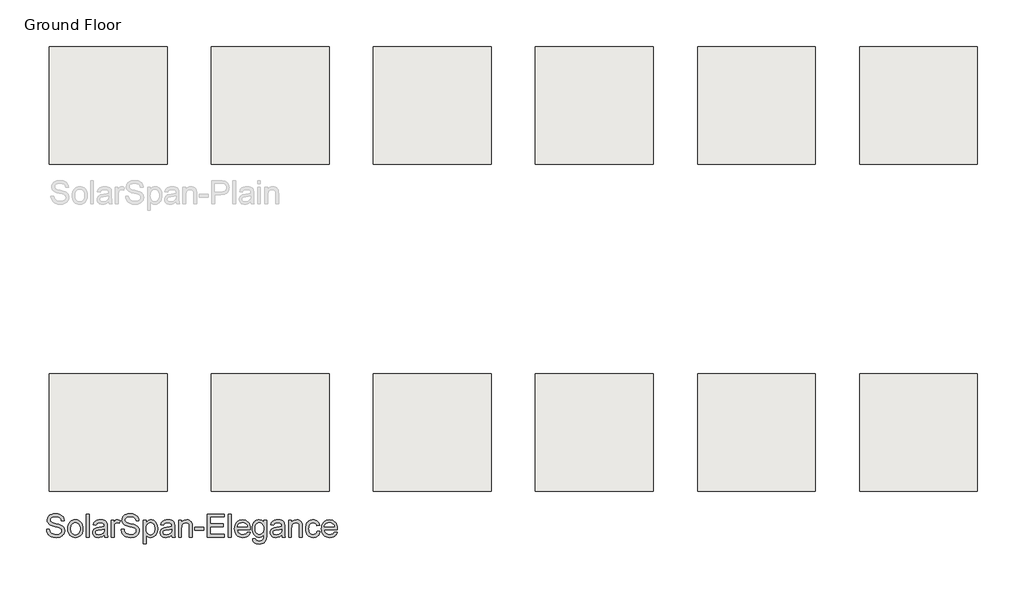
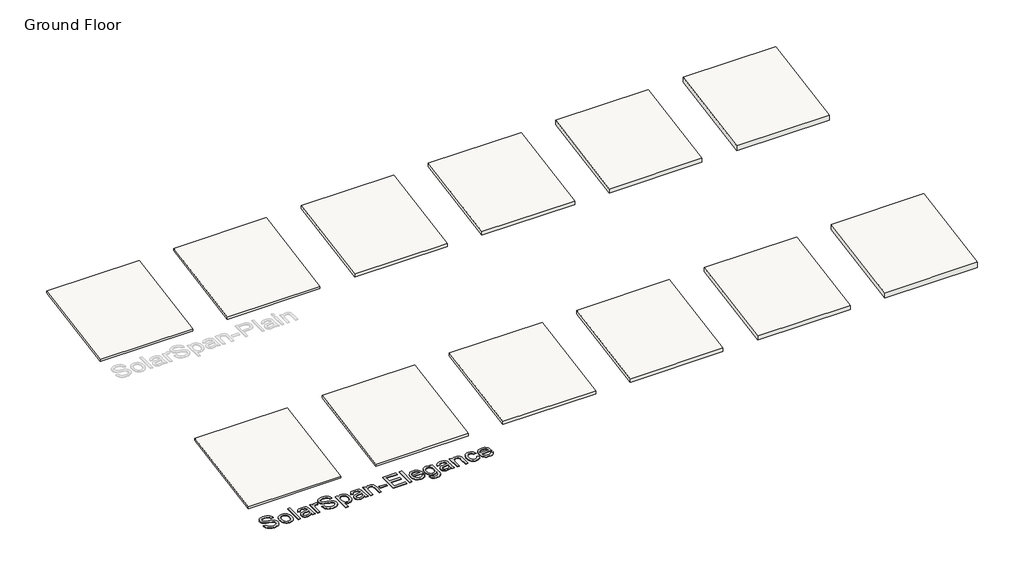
# One storey, part 1 of 2: 12 roofs, 1 proxy.
"""IFC4 building model written with IfcOpenShell, lengths in millimetres."""

from ifc_helpers import new_model, si_unit, frame, origin, origin_with_axes, place, context, project, spatial, polyline, outline, extrude, element, save

model = new_model("IFC4")

# Units and contexts
model_context = context("Model", 3, world=origin())
ifc_project = project(units=[si_unit("LENGTHUNIT", "METRE", prefix="MILLI")], contexts=[model_context])

# Site, building, storey
site = spatial("IfcSite", under=ifc_project)
building = spatial("IfcBuilding", under=site)
storey = spatial("IfcBuildingStorey", under=building, Name="Ground Floor", Elevation=0.0)

# Proxy
placement = place(None, origin())
element("IfcBuildingElementProxy", 1, Name="600mm Arial", ObjectType="600mm Arial", at=placement, inside=storey, context=model_context, shape_type="SweptSolid", body=[
    extrude(outline(polyline([(-14841.5748158, -9112.2258923), (-14743.6354219, -9112.2258923), (-14732.397259, -9166.5755608), (-14723.3708622, -9189.7512829), (-14712.0729219, -9210.2609302), (-14697.9295744, -9228.5169671), (-14680.366956, -9244.9318582), (-14659.3850668, -9259.5056035), (-14634.9839068, -9272.2382029), (-14608.0601378, -9282.5737261), (-14579.5104219, -9289.9562427), (-14517.5331492, -9295.8622559), (-14462.9682818, -9291.3909018), (-14415.194134, -9277.9768393), (-14376.4822496, -9256.7438847), (-14361.3764849, -9243.616754), (-14349.1041719, -9228.8158544), (-14332.8207912, -9196.7512237), (-14327.3929977, -9163.108468), (-14331.4578651, -9130.3265078), (-14343.6524674, -9101.9919908), (-14353.9102799, -9089.4207905), (-14368.4242477, -9077.8179851), (-14410.2206492, -9057.517559), (-14461.9401094, -9042.1427957), (-14552.8257628, -9020.1207786), (-14646.4372685, -8995.3729093), (-14706.3342855, -8971.8205893), (-14732.4869252, -8956.2186716), (-14755.0887837, -8938.8712521), (-14774.1398608, -8919.7783307), (-14789.6401568, -8898.9399074), (-14801.6494489, -8876.5711811), (-14810.2275147, -8852.8873506), (-14815.3743542, -8827.888416), (-14817.0899674, -8801.5743771), (-14814.9678675, -8772.4089534), (-14808.6015677, -8744.2119245), (-14797.9910682, -8716.9832905), (-14783.1363689, -8690.7230514), (-14764.2048466, -8666.5012237), (-14741.3638783, -8645.3878241), (-14714.613464, -8627.3828525), (-14683.9536037, -8612.486309), (-14650.4184475, -8600.8117706), (-14615.0421454, -8592.4728146), (-14577.8246975, -8587.4694411), (-14538.7661037, -8585.8016499), (-14496.1567287, -8587.5471518), (-14456.1297401, -8592.7836574), (-14418.6851378, -8601.5111669), (-14383.8229219, -8613.7296802), (-14352.188689, -8629.3315978), (-14324.4280355, -8648.2093203), (-14300.5409617, -8670.3628478), (-14280.5274674, -8695.7921802), (-14264.542974, -8723.7560769), (-14252.742903, -8753.5132976), (-14245.1272543, -8785.0638421), (-14241.696028, -8818.4077105), (-14339.6354219, -8818.4077105), (-14346.1870318, -8787.1560533), (-14357.6164825, -8759.9692635), (-14373.9237742, -8736.8473411), (-14395.1089068, -8717.7902862), (-14421.5664115, -8702.8937427), (-14453.6908196, -8692.2533544), (-14491.4821312, -8685.8691215), (-14534.9403462, -8683.7410438), (-14579.7853982, -8685.8452105), (-14618.1027515, -8692.1577105), (-14649.8924058, -8702.6785438), (-14675.1543613, -8717.4077105), (-14694.4027041, -8735.1137947), (-14708.1515204, -8754.5653809), (-14716.4008102, -8775.762469), (-14719.1505734, -8798.705059), (-14717.2018282, -8818.4435769), (-14711.3555924, -8836.3409491), (-14701.611866, -8852.3971754), (-14687.9706492, -8866.6122559), (-14666.4985848, -8880.0741404), (-14632.6884522, -8893.6794908), (-14528.0539825, -8921.3205893), (-14420.0719749, -8947.5748506), (-14354.7471643, -8970.4815741), (-14324.7209451, -8987.207308), (-14298.9150147, -9006.0132976), (-14277.3293731, -9026.8995429), (-14259.9640204, -9049.8660438), (-14246.6157131, -9074.7932455), (-14237.0812079, -9101.561593), (-14231.3605048, -9130.1710864), (-14229.4536037, -9160.6217256), (-14231.6474366, -9191.257675), (-14238.2289352, -9220.9969624), (-14249.1980995, -9249.8395878), (-14264.5549295, -9277.7855514), (-14284.0304266, -9303.7528809), (-14307.3555924, -9326.6596044), (-14334.5304266, -9346.5057218), (-14365.5549295, -9363.2912332), (-14399.5264612, -9376.6395405), (-14435.5423821, -9386.1740457), (-14473.6026923, -9391.8947488), (-14513.7073916, -9393.8016499), (-14563.8068826, -9391.7453052), (-14609.6621738, -9385.5762711), (-14651.2732652, -9375.2945476), (-14688.6401568, -9360.9001347), (-14721.9900029, -9342.3691215), (-14751.5499579, -9319.6775968), (-14777.3200218, -9292.8255608), (-14799.3001946, -9261.8130135), (-14817.0062789, -9227.6442161), (-14829.9540772, -9191.3234302), (-14838.1435895, -9152.8506555), (-14841.5748158, -9112.2258923)])), origin_with_axes(), (0.0, 0.0, 1.0), 20.0),
    extrude(outline(polyline([(-14119.2717855, -9093.8622559), (-14113.9755024, -9019.3436716), (-14107.3551485, -8985.9489924), (-14098.086653, -8955.1307218), (-14086.1700159, -8926.8888599), (-14071.6052372, -8901.2234065), (-14054.392317, -8878.1343617), (-14034.5312552, -8857.6217256), (-13997.2062079, -8829.7534728), (-13956.007581, -8809.8475779), (-13910.9353746, -8797.904041), (-13861.9895886, -8793.922862), (-13807.9567406, -8798.7708142), (-13759.1006208, -8813.3146707), (-13715.4212292, -8837.5544316), (-13676.9185658, -8871.4900968), (-13645.493554, -8913.9739392), (-13623.047117, -8963.8582313), (-13609.5792548, -9021.1429733), (-13605.0899674, -9085.828165), (-13607.0745791, -9138.2529993), (-13613.0284143, -9184.7718203), (-13622.951473, -9225.3846281), (-13636.8437552, -9260.0914226), (-13654.5319063, -9290.0698198), (-13675.8425715, -9316.4974358), (-13700.775751, -9339.3742706), (-13729.3314446, -9358.7003241), (-13760.3977917, -9374.0571541), (-13792.8629314, -9385.0263184), (-13826.7268637, -9391.607817), (-13861.9895886, -9393.8016499), (-13916.8114991, -9388.9716309), (-13966.1219276, -9374.4815741), (-14009.9208741, -9350.3314794), (-14048.2083386, -9316.5213468), (-14079.2985966, -9273.62504), (-14101.5059238, -9222.2164226), (-14114.8303201, -9162.2954946), (-14119.2717855, -9093.8622559)]), holes=[polyline([(-14021.3323916, -9093.670968), (-14018.4989399, -9141.1761172), (-14009.9985848, -9182.3089889), (-13995.8313263, -9217.0695831), (-13975.9971643, -9245.4578999), (-13951.8709806, -9267.5098056), (-13924.8276568, -9283.2611669), (-13894.8671927, -9292.7119837), (-13861.9895886, -9295.8622559), (-13829.2793613, -9292.6940504), (-13799.4384522, -9283.189434), (-13772.4668613, -9267.3484065), (-13748.3645886, -9245.170968), (-13728.5304266, -9216.5016972), (-13714.3631681, -9181.1851726), (-13705.862813, -9139.2213942), (-13703.0293613, -9090.610362), (-13705.8807462, -9044.6116049), (-13714.4349011, -9004.5547275), (-13728.6918258, -8970.4397299), (-13748.6515204, -8942.266612), (-13772.8434593, -8920.2147062), (-13799.797117, -8904.4633449), (-13829.5124934, -8895.0125282), (-13861.9895886, -8891.8622559), (-13894.8671927, -8895.0005727), (-13924.8276568, -8904.415523), (-13951.8709806, -8920.1071068), (-13975.9971643, -8942.0753241), (-13995.8313263, -8970.3799524), (-14009.9985848, -9005.0807692), (-14018.4989399, -9046.1777744), (-14021.3323916, -9093.670968)])]), origin_with_axes(), (0.0, 0.0, 1.0), 20.0),
    extrude(outline(polyline([(-13494.9081492, -9381.5592256), (-13494.9081492, -8598.0440741), (-13396.9687552, -8598.0440741), (-13396.9687552, -9381.5592256), (-13494.9081492, -9381.5592256)])), origin_with_axes(), (0.0, 0.0, 1.0), 20.0),
    extrude(outline(polyline([(-12882.7869371, -9308.1046802), (-12929.5807344, -9348.2273127), (-12953.497697, -9363.0879898), (-12977.7613689, -9374.4815741), (-13028.4287458, -9388.9716309), (-13082.6827704, -9393.8016499), (-13126.290429, -9390.8964652), (-13164.5300715, -9382.1809112), (-13197.401698, -9367.6549879), (-13224.9053083, -9347.3186953), (-13246.6224603, -9322.4632266), (-13262.1347117, -9294.3797749), (-13271.4420625, -9263.0683402), (-13274.5445128, -9228.5289226), (-13269.8579598, -9187.9280703), (-13255.7983007, -9151.0573317), (-13234.1110374, -9119.4948317), (-13206.5416719, -9094.8186953), (-13174.1422874, -9076.1681271), (-13137.9649674, -9062.6823317), (-13053.2244371, -9047.953165), (-12953.0852325, -9032.4588468), (-12883.3608007, -9014.2864983), (-12882.7869371, -8992.4796802), (-12884.4726615, -8968.7360722), (-12889.5298348, -8948.7703999), (-12897.9584569, -8932.5826631), (-12909.758528, -8920.172862), (-12930.154598, -8907.7869718), (-12954.9981113, -8898.9399074), (-12984.2890677, -8893.6316688), (-13018.0274674, -8891.8622559), (-13076.3702704, -8896.5727199), (-13098.9422401, -8902.4608), (-13117.1145886, -8910.704112), (-13132.0469986, -8921.9482526), (-13144.899153, -8936.8388184), (-13155.6710516, -8955.3758094), (-13164.3626946, -8977.5592256), (-13262.3020886, -8965.3168014), (-13245.3013783, -8911.7561953), (-13233.6627065, -8889.2798696), (-13219.9318234, -8869.672862), (-13203.5169323, -8852.5406413), (-13183.8262363, -8837.4886764), (-13160.8597354, -8824.5169671), (-13134.6174295, -8813.6255135), (-13074.4334806, -8798.8485249), (-13005.4024674, -8793.922862), (-12939.1929503, -8798.2746612), (-12886.7083386, -8811.330059), (-12847.1356587, -8830.9609775), (-12819.6619371, -8855.0393393), (-12801.4417666, -8884.8085154), (-12789.6297401, -8921.5118771), (-12786.0430924, -8955.3698317), (-12784.8475431, -9007.2088468), (-12784.8475431, -9129.0592256), (-12783.6041719, -9235.2000874), (-12779.8740583, -9299.2097938), (-12772.5094749, -9341.2692161), (-12760.3626946, -9381.5592256), (-12858.3020886, -9381.5592256), (-12873.9876946, -9347.5099832), (-12882.7869371, -9308.1046802)]), holes=[polyline([(-12882.7869371, -9112.2258923), (-12948.5899674, -9128.533184), (-13040.7907249, -9142.2580893), (-13091.6015677, -9149.7661385), (-13125.0530355, -9158.1349832), (-13146.9794087, -9168.9905703), (-13163.2149674, -9183.9588468), (-13173.257581, -9201.8920855), (-13176.6051189, -9221.642559), (-13174.7819063, -9236.8619008), (-13169.3122685, -9250.7661385), (-13160.1962055, -9263.355272), (-13147.4337174, -9274.6293014), (-13131.1443589, -9283.918719), (-13111.4476852, -9290.5540173), (-13061.8323916, -9295.8622559), (-13009.2282249, -9290.0040646), (-12985.2215962, -9282.6813255), (-12962.7452704, -9272.4294908), (-12925.0615583, -9246.5338942), (-12898.8551189, -9215.7126347), (-12887.2343802, -9183.9588468), (-12883.3608007, -9139.9626347), (-12882.7869371, -9112.2258923)])]), origin_with_axes(), (0.0, 0.0, 1.0), 20.0),
    extrude(outline(polyline([(-12650.1808765, -9381.5592256), (-12650.1808765, -8806.1652862), (-12564.4839068, -8806.1652862), (-12564.4839068, -8891.2883923), (-12532.8257628, -8841.9361196), (-12503.6543613, -8812.860362), (-12474.3873158, -8798.657237), (-12442.4422401, -8793.922862), (-12418.1486795, -8795.8118298), (-12393.663831, -8801.4787332), (-12368.9876946, -8810.9235722), (-12344.1202704, -8824.1463468), (-12376.8304977, -8911.9474832), (-12411.2623158, -8896.8835627), (-12445.694134, -8891.8622559), (-12474.9372685, -8896.6922749), (-12501.0719749, -8911.1823317), (-12522.1853746, -8934.2325211), (-12536.3645886, -8964.7429377), (-12548.272259, -9019.4512711), (-12552.2414825, -9079.1330893), (-12552.2414825, -9381.5592256), (-12650.1808765, -9381.5592256)])), origin_with_axes(), (0.0, 0.0, 1.0), 20.0),
    extrude(outline(polyline([(-12307.3929977, -9112.2258923), (-12209.4536037, -9112.2258923), (-12198.2154408, -9166.5755608), (-12189.1890441, -9189.7512829), (-12177.8911037, -9210.2609302), (-12163.7477562, -9228.5169671), (-12146.1851378, -9244.9318582), (-12125.2032486, -9259.5056035), (-12100.8020886, -9272.2382029), (-12073.8783196, -9282.5737261), (-12045.3286037, -9289.9562427), (-11983.351331, -9295.8622559), (-11928.7864636, -9291.3909018), (-11881.0123158, -9277.9768393), (-11842.3004314, -9256.7438847), (-11827.1946667, -9243.616754), (-11814.9223537, -9228.8158544), (-11798.638973, -9196.7512237), (-11793.2111795, -9163.108468), (-11797.2760469, -9130.3265078), (-11809.4706492, -9101.9919908), (-11819.7284617, -9089.4207905), (-11834.2424295, -9077.8179851), (-11876.038831, -9057.517559), (-11927.7582912, -9042.1427957), (-12018.6439446, -9020.1207786), (-12112.2554503, -8995.3729093), (-12172.1524674, -8971.8205893), (-12198.305107, -8956.2186716), (-12220.9069655, -8938.8712521), (-12239.9580426, -8919.7783307), (-12255.4583386, -8898.9399074), (-12267.4676307, -8876.5711811), (-12276.0456965, -8852.8873506), (-12281.192536, -8827.888416), (-12282.9081492, -8801.5743771), (-12280.7860493, -8772.4089534), (-12274.4197496, -8744.2119245), (-12263.80925, -8716.9832905), (-12248.9545507, -8690.7230514), (-12230.0230284, -8666.5012237), (-12207.1820602, -8645.3878241), (-12180.4316459, -8627.3828525), (-12149.7717855, -8612.486309), (-12116.2366293, -8600.8117706), (-12080.8603272, -8592.4728146), (-12043.6428793, -8587.4694411), (-12004.5842855, -8585.8016499), (-11961.9749105, -8587.5471518), (-11921.9479219, -8592.7836574), (-11884.5033196, -8601.5111669), (-11849.6411037, -8613.7296802), (-11818.0068708, -8629.3315978), (-11790.2462174, -8648.2093203), (-11766.3591435, -8670.3628478), (-11746.3456492, -8695.7921802), (-11730.3611558, -8723.7560769), (-11718.5610848, -8753.5132976), (-11710.9454361, -8785.0638421), (-11707.5142098, -8818.4077105), (-11805.4536037, -8818.4077105), (-11812.0052136, -8787.1560533), (-11823.4346643, -8759.9692635), (-11839.741956, -8736.8473411), (-11860.9270886, -8717.7902862), (-11887.3845933, -8702.8937427), (-11919.5090015, -8692.2533544), (-11957.300313, -8685.8691215), (-12000.758528, -8683.7410438), (-12045.6035801, -8685.8452105), (-12083.9209333, -8692.1577105), (-12115.7105876, -8702.6785438), (-12140.9725431, -8717.4077105), (-12160.2208859, -8735.1137947), (-12173.9697022, -8754.5653809), (-12182.218992, -8775.762469), (-12184.9687552, -8798.705059), (-12183.02001, -8818.4435769), (-12177.1737742, -8836.3409491), (-12167.4300479, -8852.3971754), (-12153.788831, -8866.6122559), (-12132.3167666, -8880.0741404), (-12098.506634, -8893.6794908), (-11993.8721643, -8921.3205893), (-11885.8901568, -8947.5748506), (-11820.5653462, -8970.4815741), (-11790.5391269, -8987.207308), (-11764.7331965, -9006.0132976), (-11743.147555, -9026.8995429), (-11725.7822022, -9049.8660438), (-11712.4338949, -9074.7932455), (-11702.8993897, -9101.561593), (-11697.1786866, -9130.1710864), (-11695.2717855, -9160.6217256), (-11697.4656184, -9191.257675), (-11704.047117, -9220.9969624), (-11715.0162813, -9249.8395878), (-11730.3731113, -9277.7855514), (-11749.8486085, -9303.7528809), (-11773.1737742, -9326.6596044), (-11800.3486085, -9346.5057218), (-11831.3731113, -9363.2912332), (-11865.344643, -9376.6395405), (-11901.360564, -9386.1740457), (-11939.4208741, -9391.8947488), (-11979.5255734, -9393.8016499), (-12029.6250644, -9391.7453052), (-12075.4803556, -9385.5762711), (-12117.091447, -9375.2945476), (-12154.4583386, -9360.9001347), (-12187.8081847, -9342.3691215), (-12217.3681397, -9319.6775968), (-12243.1382036, -9292.8255608), (-12265.1183765, -9261.8130135), (-12282.8244607, -9227.6442161), (-12295.772259, -9191.3234302), (-12303.9617713, -9152.8506555), (-12307.3929977, -9112.2258923)])), origin_with_axes(), (0.0, 0.0, 1.0), 20.0),
    extrude(outline(polyline([(-11560.6051189, -9601.922862), (-11560.6051189, -8806.1652862), (-11462.6657249, -8806.1652862), (-11462.6657249, -8902.1918014), (-11430.7206492, -8854.8241404), (-11394.9498158, -8820.9900968), (-11375.1036984, -8809.1481816), (-11353.2490583, -8800.6896707), (-11329.3858954, -8795.6145642), (-11303.5142098, -8793.922862), (-11269.3573679, -8796.2900495), (-11237.2807818, -8803.391612), (-11207.2844513, -8815.2275495), (-11179.3683765, -8831.797862), (-11154.1422874, -8852.6721518), (-11132.2159143, -8877.4200211), (-11113.5892571, -8906.0414699), (-11098.2623158, -8938.5364983), (-11086.2948679, -8973.7932455), (-11077.7466908, -9010.6998506), (-11072.6177846, -9049.2563137), (-11070.9081492, -9089.4626347), (-11072.8389612, -9132.4486077), (-11078.6313973, -9173.2228146), (-11088.2854574, -9211.7852554), (-11101.8011416, -9248.1359302), (-11118.9931397, -9281.3243771), (-11139.6761416, -9310.4001347), (-11163.8501473, -9335.3632029), (-11191.5151568, -9356.2135817), (-11221.3142216, -9372.6583615), (-11251.8903935, -9384.4046328), (-11283.2436724, -9391.4523956), (-11315.3740583, -9393.8016499), (-11338.4900029, -9392.2295026), (-11360.3984427, -9387.5130608), (-11381.0993779, -9379.6523246), (-11400.5928083, -9368.6472938), (-11435.0007155, -9340.1693108), (-11462.6657249, -9305.0440741), (-11462.6657249, -9601.922862), (-11560.6051189, -9601.922862)]), holes=[polyline([(-11462.6657249, -9098.453165), (-11460.0175834, -9145.6534491), (-11452.0731587, -9186.2543014), (-11438.8324508, -9220.2557218), (-11420.2954598, -9247.6577105), (-11397.9805332, -9268.7471991), (-11373.4060185, -9283.8111196), (-11346.5719158, -9292.8494718), (-11317.4782249, -9295.8622559), (-11287.9660919, -9292.7418724), (-11260.641814, -9283.3807218), (-11235.5053911, -9267.7788042), (-11212.5568234, -9245.9361196), (-11193.4340133, -9217.541825), (-11179.7748632, -9182.2850779), (-11171.5793731, -9140.1658781), (-11168.8475431, -9091.1842256), (-11171.5136179, -9044.3904283), (-11179.5118424, -9003.861309), (-11192.8422164, -8969.5968677), (-11211.5047401, -8941.5971044), (-11233.8734664, -8919.8381082), (-11258.3224484, -8904.295968), (-11284.8516861, -8894.970684), (-11313.4611795, -8891.8622559), (-11341.9810067, -8895.1679496), (-11368.8151094, -8905.0850305), (-11393.9634877, -8921.6134988), (-11417.4261416, -8944.7533544), (-11437.2184593, -8974.1937545), (-11451.3558291, -9009.6238563), (-11459.838251, -9051.0436598), (-11462.6657249, -9098.453165)])]), origin_with_axes(), (0.0, 0.0, 1.0), 20.0),
    extrude(outline(polyline([(-10593.4536037, -9308.1046802), (-10640.2474011, -9348.2273127), (-10664.1643637, -9363.0879898), (-10688.4280355, -9374.4815741), (-10739.0954124, -9388.9716309), (-10793.3494371, -9393.8016499), (-10836.9570957, -9390.8964652), (-10875.1967382, -9382.1809112), (-10908.0683646, -9367.6549879), (-10935.5719749, -9347.3186953), (-10957.2891269, -9322.4632266), (-10972.8013783, -9294.3797749), (-10982.1087292, -9263.0683402), (-10985.2111795, -9228.5289226), (-10980.5246265, -9187.9280703), (-10966.4649674, -9151.0573317), (-10944.7777041, -9119.4948317), (-10917.2083386, -9094.8186953), (-10884.8089541, -9076.1681271), (-10848.631634, -9062.6823317), (-10763.8911037, -9047.953165), (-10663.7518992, -9032.4588468), (-10594.0274674, -9014.2864983), (-10593.4536037, -8992.4796802), (-10595.1393282, -8968.7360722), (-10600.1965015, -8948.7703999), (-10608.6251236, -8932.5826631), (-10620.4251946, -8920.172862), (-10640.8212647, -8907.7869718), (-10665.664778, -8898.9399074), (-10694.9557344, -8893.6316688), (-10728.694134, -8891.8622559), (-10787.0369371, -8896.5727199), (-10809.6089068, -8902.4608), (-10827.7812552, -8910.704112), (-10842.7136653, -8921.9482526), (-10855.5658196, -8936.8388184), (-10866.3377183, -8955.3758094), (-10875.0293613, -8977.5592256), (-10972.9687552, -8965.3168014), (-10955.968045, -8911.7561953), (-10944.3293731, -8889.2798696), (-10930.5984901, -8869.672862), (-10914.183599, -8852.5406413), (-10894.492903, -8837.4886764), (-10871.526402, -8824.5169671), (-10845.2840962, -8813.6255135), (-10785.1001473, -8798.8485249), (-10716.069134, -8793.922862), (-10649.859617, -8798.2746612), (-10597.3750052, -8811.330059), (-10557.8023253, -8830.9609775), (-10530.3286037, -8855.0393393), (-10512.1084333, -8884.8085154), (-10500.2964068, -8921.5118771), (-10496.709759, -8955.3698317), (-10495.5142098, -9007.2088468), (-10495.5142098, -9129.0592256), (-10494.2708386, -9235.2000874), (-10490.5407249, -9299.2097938), (-10483.1761416, -9341.2692161), (-10471.0293613, -9381.5592256), (-10568.9687552, -9381.5592256), (-10584.6543613, -9347.5099832), (-10593.4536037, -9308.1046802)]), holes=[polyline([(-10593.4536037, -9112.2258923), (-10659.256634, -9128.533184), (-10751.4573916, -9142.2580893), (-10802.2682344, -9149.7661385), (-10835.7197022, -9158.1349832), (-10857.6460753, -9168.9905703), (-10873.881634, -9183.9588468), (-10883.9242477, -9201.8920855), (-10887.2717855, -9221.642559), (-10885.448573, -9236.8619008), (-10879.9789352, -9250.7661385), (-10870.8628722, -9263.355272), (-10858.100384, -9274.6293014), (-10841.8110256, -9283.918719), (-10822.1143518, -9290.5540173), (-10772.4990583, -9295.8622559), (-10719.8948916, -9290.0040646), (-10695.8882628, -9282.6813255), (-10673.4119371, -9272.4294908), (-10635.7282249, -9246.5338942), (-10609.5217855, -9215.7126347), (-10597.9010469, -9183.9588468), (-10594.0274674, -9139.9626347), (-10593.4536037, -9112.2258923)])]), origin_with_axes(), (0.0, 0.0, 1.0), 20.0),
    extrude(outline(polyline([(-10360.8475431, -9381.5592256), (-10360.8475431, -8806.1652862), (-10262.9081492, -8806.1652862), (-10262.9081492, -8886.5061953), (-10228.8828177, -8846.000987), (-10209.3056989, -8830.0882266), (-10188.0189446, -8817.0686953), (-10165.022555, -8806.9423932), (-10140.3165299, -8799.7093203), (-10085.7755734, -8793.922862), (-10037.499295, -8798.585504), (-9993.287884, -8812.5734302), (-9956.4171454, -8834.1411385), (-9930.162884, -8861.5431271), (-9912.3492003, -8894.7076631), (-9900.8001946, -8933.5630135), (-9896.9266151, -8970.720684), (-9895.6354219, -9028.2505135), (-9895.6354219, -9381.5592256), (-9993.5748158, -9381.5592256), (-9993.5748158, -9041.4493771), (-9996.3963121, -8990.8059112), (-10004.8608007, -8954.795968), (-10020.4746738, -8928.9960154), (-10044.7443234, -8908.9825211), (-10075.8525147, -8896.1423222), (-10111.9820128, -8891.8622559), (-10141.7213002, -8894.2653099), (-10169.3444655, -8901.4744718), (-10194.8515086, -8913.4897417), (-10218.2424295, -8930.3111196), (-10237.7836819, -8953.8514841), (-10251.7417193, -8986.0237143), (-10260.1165417, -9026.8278099), (-10262.9081492, -9076.2637711), (-10262.9081492, -9381.5592256), (-10360.8475431, -9381.5592256)])), origin_with_axes(), (0.0, 0.0, 1.0), 20.0),
    extrude(outline(polyline([(-9809.9384522, -9148.953165), (-9809.9384522, -9051.0137711), (-9503.8778462, -9051.0137711), (-9503.8778462, -9148.953165), (-9809.9384522, -9148.953165)])), origin_with_axes(), (0.0, 0.0, 1.0), 20.0),
    extrude(outline(polyline([(-9381.4536037, -9381.5592256), (-9381.4536037, -8598.0440741), (-8818.3020886, -8598.0440741), (-8818.3020886, -8695.983468), (-9283.5142098, -8695.983468), (-9283.5142098, -8928.5895286), (-8842.7869371, -8928.5895286), (-8842.7869371, -9026.5289226), (-9283.5142098, -9026.5289226), (-9283.5142098, -9283.6198317), (-8806.0596643, -9283.6198317), (-8806.0596643, -9381.5592256), (-9381.4536037, -9381.5592256)])), origin_with_axes(), (0.0, 0.0, 1.0), 20.0),
    extrude(outline(polyline([(-8671.3929977, -9381.5592256), (-8671.3929977, -8598.0440741), (-8573.4536037, -8598.0440741), (-8573.4536037, -9381.5592256), (-8671.3929977, -9381.5592256)])), origin_with_axes(), (0.0, 0.0, 1.0), 20.0),
    extrude(outline(polyline([(-8023.6922401, -9210.1652862), (-7927.6657249, -9222.4077105), (-7942.3889139, -9260.8685296), (-7962.26492, -9294.7623506), (-7987.2937434, -9324.0891735), (-8017.475384, -9348.8489983), (-8052.4989991, -9368.5157834), (-8092.0537458, -9382.563487), (-8136.1396241, -9390.9921091), (-8184.756634, -9393.8016499), (-8245.526402, -9388.9536977), (-8299.6728272, -9374.4098411), (-8347.1959096, -9350.1700803), (-8388.0956492, -9316.234415), (-8420.9852088, -9273.5473293), (-8444.4777515, -9223.0533071), (-8458.573277, -9164.7523483), (-8463.2717855, -9098.6444529), (-8458.5254551, -9030.2949027), (-8444.2864636, -8970.0511764), (-8420.5548111, -8917.9132739), (-8387.3304977, -8873.8811953), (-8346.5383575, -8838.8994245), (-8300.1032249, -8813.9124453), (-8248.0250999, -8798.9202578), (-8190.3039825, -8793.922862), (-8134.4419442, -8798.9083023), (-8083.9240109, -8813.8646233), (-8038.7501828, -8838.791825), (-7998.9204598, -8873.6899074), (-7966.4074981, -8917.6263421), (-7943.1839541, -8969.6686006), (-7929.2498277, -9029.816683), (-7924.6051189, -9098.0705893), (-7925.1789825, -9124.4683165), (-8365.3323916, -9124.4683165), (-8359.6595105, -9163.5508213), (-8348.3795033, -9197.7793961), (-8331.4923703, -9227.154041), (-8308.9981113, -9251.6747559), (-8282.1400976, -9271.0067872), (-8252.1617003, -9284.8153809), (-8219.0629195, -9293.1005372), (-8182.8437552, -9295.8622559), (-8130.7178083, -9290.7453052), (-8086.8172401, -9275.3944529), (-8067.951473, -9263.6422038), (-8051.1420507, -9248.8532597), (-8036.388973, -9231.0276205), (-8023.6922401, -9210.1652862)]), holes=[polyline([(-8365.3323916, -9026.5289226), (-8022.5445128, -9026.5289226), (-8027.5777751, -8998.8160911), (-8035.7911984, -8974.7855514), (-8047.1847827, -8954.4373033), (-8061.758528, -8937.7713468), (-8088.467098, -8917.6861196), (-8118.8579598, -8903.3395286), (-8152.9311132, -8894.7315741), (-8190.6865583, -8891.8622559), (-8225.1243542, -8894.1517327), (-8256.7047874, -8901.0201631), (-8285.427858, -8912.4675471), (-8311.2935658, -8928.4938847), (-8332.9987623, -8948.3579354), (-8349.2402988, -8971.3184586), (-8360.0181752, -8997.3754543), (-8365.3323916, -9026.5289226)])]), origin_with_axes(), (0.0, 0.0, 1.0), 20.0),
    extrude(outline(polyline([(-7851.1505734, -9430.5289226), (-7753.2111795, -9442.7713468), (-7749.0745791, -9459.2699264), (-7742.4034143, -9473.3774074), (-7733.1976852, -9485.09379), (-7721.4573916, -9494.4190741), (-7702.4601141, -9503.9595571), (-7680.2826757, -9510.7741877), (-7626.3873158, -9516.2258923), (-7595.8051662, -9514.6836338), (-7568.9053083, -9510.0568582), (-7545.687742, -9502.3455656), (-7526.1524674, -9491.5497559), (-7509.8929977, -9477.9683165), (-7496.5028462, -9461.9001347), (-7485.9820128, -9443.3452105), (-7478.3304977, -9422.3035438), (-7473.022259, -9380.1723885), (-7471.6354219, -9308.1046802), (-7504.2260943, -9340.2410438), (-7540.5947022, -9363.1955893), (-7580.7412458, -9376.9683165), (-7624.6657249, -9381.5592256), (-7678.3638192, -9376.2151205), (-7725.641814, -9360.1828052), (-7766.4997093, -9333.4622796), (-7800.9375052, -9296.0535438), (-7828.2617832, -9251.1726252), (-7847.7791246, -9202.0355514), (-7859.4895294, -9148.6423222), (-7863.3929977, -9090.9929377), (-7861.641518, -9050.661084), (-7856.3870791, -9011.9193108), (-7847.6296809, -8974.7676181), (-7835.3693234, -8939.2060059), (-7819.7913168, -8906.4180679), (-7801.0809712, -8877.587398), (-7779.2382865, -8852.713996), (-7754.2632628, -8831.797862), (-7726.5564091, -8815.2275495), (-7696.5182344, -8803.391612), (-7664.1487387, -8796.2900495), (-7629.4479219, -8793.922862), (-7583.6464304, -8799.2789226), (-7542.0771833, -8815.3471044), (-7504.7401804, -8842.1274074), (-7471.6354219, -8879.6198317), (-7471.6354219, -8806.1652862), (-7373.696028, -8806.1652862), (-7373.696028, -9302.9399074), (-7375.3697969, -9365.1861787), (-7380.3911037, -9417.6409018), (-7388.7599484, -9460.3040765), (-7400.476331, -9493.1757029), (-7415.8212055, -9519.6870073), (-7435.0755261, -9543.2692161), (-7458.2392926, -9563.9223293), (-7485.3125052, -9581.6463468), (-7516.0201875, -9595.8733828), (-7550.0873632, -9606.0355514), (-7587.5140322, -9612.1328525), (-7628.3001946, -9614.1652862), (-7676.2835635, -9611.3019458), (-7719.4249579, -9602.7119245), (-7757.7243779, -9588.3952223), (-7791.1818234, -9568.3518393), (-7818.207214, -9542.5578643), (-7837.2104693, -9510.9893866), (-7848.191589, -9473.646406), (-7851.1505734, -9430.5289226)]), holes=[polyline([(-7765.4536037, -9084.297862), (-7762.8413286, -9132.723584), (-7755.0045033, -9174.1314321), (-7741.9431279, -9208.521406), (-7723.6572022, -9235.8935059), (-7701.425964, -9256.7737734), (-7676.5286511, -9271.6882502), (-7648.9652633, -9280.6369363), (-7618.7358007, -9283.6198317), (-7588.8052254, -9280.6548696), (-7561.373348, -9271.7599832), (-7536.4401686, -9256.9351726), (-7514.0056871, -9236.1804377), (-7495.4686961, -9209.0773364), (-7482.2279882, -9175.2074264), (-7474.2835635, -9134.5707076), (-7471.6354219, -9087.1671802), (-7474.3612742, -9041.7422867), (-7482.538831, -9002.259273), (-7496.1680924, -8968.718139), (-7515.2490583, -8941.1188847), (-7538.1677372, -8919.5691096), (-7563.3101378, -8904.1764131), (-7590.67626, -8894.9407952), (-7620.2661037, -8891.8622559), (-7649.3597945, -8894.8929733), (-7676.1938973, -8903.9851252), (-7700.768412, -8919.1387119), (-7723.0833386, -8940.3537332), (-7741.6203296, -8967.5345452), (-7754.8610374, -9000.585504), (-7762.8054622, -9039.5066096), (-7765.4536037, -9084.297862)])]), origin_with_axes(), (0.0, 0.0, 1.0), 20.0),
    extrude(outline(polyline([(-6859.5142098, -9308.1046802), (-6906.3080071, -9348.2273127), (-6930.2249697, -9363.0879898), (-6954.4886416, -9374.4815741), (-7005.1560185, -9388.9716309), (-7059.4100431, -9393.8016499), (-7103.0177017, -9390.8964652), (-7141.2573443, -9382.1809112), (-7174.1289707, -9367.6549879), (-7201.632581, -9347.3186953), (-7223.349733, -9322.4632266), (-7238.8619844, -9294.3797749), (-7248.1693353, -9263.0683402), (-7251.2717855, -9228.5289226), (-7246.5852325, -9187.9280703), (-7232.5255734, -9151.0573317), (-7210.8383102, -9119.4948317), (-7183.2689446, -9094.8186953), (-7150.8695602, -9076.1681271), (-7114.6922401, -9062.6823317), (-7029.9517098, -9047.953165), (-6929.8125052, -9032.4588468), (-6860.0880734, -9014.2864983), (-6859.5142098, -8992.4796802), (-6861.1999342, -8968.7360722), (-6866.2571075, -8948.7703999), (-6874.6857297, -8932.5826631), (-6886.4858007, -8920.172862), (-6906.8818708, -8907.7869718), (-6931.725384, -8898.9399074), (-6961.0163405, -8893.6316688), (-6994.7547401, -8891.8622559), (-7053.0975431, -8896.5727199), (-7075.6695128, -8902.4608), (-7093.8418613, -8910.704112), (-7108.7742713, -8921.9482526), (-7121.6264257, -8936.8388184), (-7132.3983244, -8955.3758094), (-7141.0899674, -8977.5592256), (-7239.0293613, -8965.3168014), (-7222.0286511, -8911.7561953), (-7210.3899792, -8889.2798696), (-7196.6590962, -8869.672862), (-7180.2442051, -8852.5406413), (-7160.553509, -8837.4886764), (-7137.5870081, -8824.5169671), (-7111.3447022, -8813.6255135), (-7051.1607533, -8798.8485249), (-6982.1297401, -8793.922862), (-6915.920223, -8798.2746612), (-6863.4356113, -8811.330059), (-6823.8629314, -8830.9609775), (-6796.3892098, -8855.0393393), (-6778.1690393, -8884.8085154), (-6766.3570128, -8921.5118771), (-6762.7703651, -8955.3698317), (-6761.5748158, -9007.2088468), (-6761.5748158, -9129.0592256), (-6760.3314446, -9235.2000874), (-6756.601331, -9299.2097938), (-6749.2367477, -9341.2692161), (-6737.0899674, -9381.5592256), (-6835.0293613, -9381.5592256), (-6850.7149674, -9347.5099832), (-6859.5142098, -9308.1046802)]), holes=[polyline([(-6859.5142098, -9112.2258923), (-6925.3172401, -9128.533184), (-7017.5179977, -9142.2580893), (-7068.3288405, -9149.7661385), (-7101.7803083, -9158.1349832), (-7123.7066814, -9168.9905703), (-7139.9422401, -9183.9588468), (-7149.9848537, -9201.8920855), (-7153.3323916, -9221.642559), (-7151.509179, -9236.8619008), (-7146.0395412, -9250.7661385), (-7136.9234783, -9263.355272), (-7124.1609901, -9274.6293014), (-7107.8716317, -9283.918719), (-7088.1749579, -9290.5540173), (-7038.5596643, -9295.8622559), (-6985.9554977, -9290.0040646), (-6961.9488689, -9282.6813255), (-6939.4725431, -9272.4294908), (-6901.788831, -9246.5338942), (-6875.5823916, -9215.7126347), (-6863.961653, -9183.9588468), (-6860.0880734, -9139.9626347), (-6859.5142098, -9112.2258923)])]), origin_with_axes(), (0.0, 0.0, 1.0), 20.0),
    extrude(outline(polyline([(-6626.9081492, -9381.5592256), (-6626.9081492, -8806.1652862), (-6528.9687552, -8806.1652862), (-6528.9687552, -8886.5061953), (-6494.9434238, -8846.000987), (-6475.366305, -8830.0882266), (-6454.0795507, -8817.0686953), (-6431.083161, -8806.9423932), (-6406.3771359, -8799.7093203), (-6351.8361795, -8793.922862), (-6303.5599011, -8798.585504), (-6259.3484901, -8812.5734302), (-6222.4777515, -8834.1411385), (-6196.2234901, -8861.5431271), (-6178.4098064, -8894.7076631), (-6166.8608007, -8933.5630135), (-6162.9872212, -8970.720684), (-6161.696028, -9028.2505135), (-6161.696028, -9381.5592256), (-6259.6354219, -9381.5592256), (-6259.6354219, -9041.4493771), (-6262.4569181, -8990.8059112), (-6270.9214068, -8954.795968), (-6286.5352799, -8928.9960154), (-6310.8049295, -8908.9825211), (-6341.9131208, -8896.1423222), (-6378.0426189, -8891.8622559), (-6407.7819063, -8894.2653099), (-6435.4050715, -8901.4744718), (-6460.9121146, -8913.4897417), (-6484.3030355, -8930.3111196), (-6503.8442879, -8953.8514841), (-6517.8023253, -8986.0237143), (-6526.1771478, -9026.8278099), (-6528.9687552, -9076.2637711), (-6528.9687552, -9381.5592256), (-6626.9081492, -9381.5592256)])), origin_with_axes(), (0.0, 0.0, 1.0), 20.0),
    extrude(outline(polyline([(-5659.756634, -9173.4380135), (-5561.8172401, -9185.6804377), (-5572.4695838, -9231.8943937), (-5589.1235848, -9272.7881555), (-5611.7792429, -9308.3617233), (-5640.4365583, -9338.6150968), (-5673.8880261, -9362.7592138), (-5710.9261416, -9380.0050116), (-5751.5509049, -9390.3524903), (-5795.7623158, -9393.8016499), (-5850.6918258, -9388.9895642), (-5899.9424768, -9374.5533071), (-5943.514269, -9350.4928786), (-5981.4072022, -9316.8082786), (-6012.079018, -9274.1331484), (-6033.9874579, -9223.101129), (-6047.1325218, -9163.7122204), (-6051.5142098, -9095.9664226), (-6049.6431752, -9050.9360604), (-6044.0300715, -9008.8108828), (-6034.6748987, -8969.5908899), (-6021.5776568, -8933.2760817), (-6004.6486795, -8900.5957431), (-5983.7983007, -8872.2791593), (-5959.0265204, -8848.3263303), (-5930.3333386, -8828.7372559), (-5899.0159262, -8813.5059586), (-5866.3714541, -8802.6264605), (-5832.3999224, -8796.0987616), (-5797.101331, -8793.922862), (-5753.6490938, -8796.9117351), (-5714.3454124, -8805.8783544), (-5679.190287, -8820.8227199), (-5648.1837174, -8841.7448317), (-5621.8517453, -8868.1664699), (-5600.7204124, -8899.609415), (-5584.7897188, -8936.0736669), (-5574.0596643, -8977.5592256), (-5671.9990583, -8989.8016499), (-5679.6445957, -8966.9248151), (-5689.76492, -8947.0727199), (-5702.3600313, -8930.2453643), (-5717.4299295, -8916.4427483), (-5734.5920389, -8905.6887829), (-5753.4637837, -8898.007379), (-5774.0451639, -8893.3985367), (-5796.3361795, -8891.8622559), (-5829.6142926, -8894.8869955), (-5859.6285564, -8903.9612143), (-5886.3789707, -8919.0849122), (-5909.8655355, -8940.2580893), (-5928.9883457, -8967.9709207), (-5942.6474958, -9002.7135817), (-5950.8429858, -9044.4860722), (-5953.5748158, -9093.2883923), (-5950.9027633, -9142.8259751), (-5942.8866056, -9185.0826631), (-5929.5263428, -9220.0584562), (-5910.8219749, -9247.7533544), (-5887.8016743, -9268.8009988), (-5861.4936132, -9283.8350305), (-5831.8977917, -9292.8554496), (-5799.0142098, -9295.8622559), (-5772.5148608, -9293.9852436), (-5748.2990109, -9288.3542067), (-5726.3666601, -9278.9691451), (-5706.7178083, -9265.830059), (-5689.9024082, -9248.7934822), (-5676.4704124, -9227.7159491), (-5666.4218211, -9202.5974595), (-5659.756634, -9173.4380135)])), origin_with_axes(), (0.0, 0.0, 1.0), 20.0),
    extrude(outline(polyline([(-5073.2679977, -9210.1652862), (-4977.2414825, -9222.4077105), (-4991.9646714, -9260.8685296), (-5011.8406776, -9294.7623506), (-5036.869501, -9324.0891735), (-5067.0511416, -9348.8489983), (-5102.0747567, -9368.5157834), (-5141.6295033, -9382.563487), (-5185.7153817, -9390.9921091), (-5234.3323916, -9393.8016499), (-5295.1021596, -9388.9536977), (-5349.2485848, -9374.4098411), (-5396.7716672, -9350.1700803), (-5437.6714068, -9316.234415), (-5470.5609664, -9273.5473293), (-5494.053509, -9223.0533071), (-5508.1490346, -9164.7523483), (-5512.8475431, -9098.6444529), (-5508.1012126, -9030.2949027), (-5493.8622212, -8970.0511764), (-5470.1305687, -8917.9132739), (-5436.9062552, -8873.8811953), (-5396.1141151, -8838.8994245), (-5349.6789825, -8813.9124453), (-5297.6008575, -8798.9202578), (-5239.8797401, -8793.922862), (-5184.0177017, -8798.9083023), (-5133.4997685, -8813.8646233), (-5088.3259404, -8838.791825), (-5048.4962174, -8873.6899074), (-5015.9832557, -8917.6263421), (-4992.7597117, -8969.6686006), (-4978.8255853, -9029.816683), (-4974.1808765, -9098.0705893), (-4974.7547401, -9124.4683165), (-5414.9081492, -9124.4683165), (-5409.235268, -9163.5508213), (-5397.9552609, -9197.7793961), (-5381.0681279, -9227.154041), (-5358.5738689, -9251.6747559), (-5331.7158551, -9271.0067872), (-5301.7374579, -9284.8153809), (-5268.6386771, -9293.1005372), (-5232.4195128, -9295.8622559), (-5180.2935658, -9290.7453052), (-5136.3929977, -9275.3944529), (-5117.5272306, -9263.6422038), (-5100.7178083, -9248.8532597), (-5085.9647306, -9231.0276205), (-5073.2679977, -9210.1652862)]), holes=[polyline([(-5414.9081492, -9026.5289226), (-5072.1202704, -9026.5289226), (-5077.1535327, -8998.8160911), (-5085.366956, -8974.7855514), (-5096.7605403, -8954.4373033), (-5111.3342855, -8937.7713468), (-5138.0428556, -8917.6861196), (-5168.4337174, -8903.3395286), (-5202.5068708, -8894.7315741), (-5240.2623158, -8891.8622559), (-5274.7001118, -8894.1517327), (-5306.280545, -8901.0201631), (-5335.0036156, -8912.4675471), (-5360.8693234, -8928.4938847), (-5382.5745199, -8948.3579354), (-5398.8160564, -8971.3184586), (-5409.5939328, -8997.3754543), (-5414.9081492, -9026.5289226)])]), origin_with_axes(), (0.0, 0.0, 1.0), 20.0),
])

# Roofs
element("IfcRoof", 2, ObjectType="Insulated Panel-Elegance-Bondor-SolarSpan-50mm-Surfmist", at=placement, inside=storey, context=model_context, shape_type="SweptSolid", body=[
    extrude(outline(polyline([(-7830.9306275, 83.2649822), (-3830.9306275, 788.572905), (-3830.9306275, 705.3079228), (-7830.9306275, 0.0), (-7830.9306275, 83.2649822)])), frame((-14748.370589, 0.0, 0.0), z_axis=(1.0, 0.0, 0.0), x_axis=(0.0, 1.0, 0.0)), (0.0, 0.0, 1.0), 4000.0),
])
element("IfcRoof", 3, ObjectType="Insulated Panel-Elegance-Bondor-SolarSpan-75mm-Surfmist", at=placement, inside=storey, context=model_context, shape_type="SweptSolid", body=[
    extrude(outline(polyline([(-7830.9306275, 108.6506475), (-3830.9306275, 813.9585703), (-3830.9306275, 705.3079228), (-7830.9306275, 0.0), (-7830.9306275, 108.6506475)])), frame((-9248.370589, 0.0, 0.0), z_axis=(1.0, 0.0, 0.0), x_axis=(0.0, 1.0, 0.0)), (0.0, 0.0, 1.0), 4000.0),
])
element("IfcRoof", 4, ObjectType="Insulated Panel-Elegance-Bondor-Solar Span-100mm-Surfmist", at=placement, inside=storey, context=model_context, shape_type="SweptSolid", body=[
    extrude(outline(polyline([(-7830.9306275, 134.0363128), (-3830.9306275, 839.3442356), (-3830.9306275, 705.3079228), (-7830.9306275, 0.0), (-7830.9306275, 134.0363128)])), frame((-3748.370589, 0.0, 0.0), z_axis=(1.0, 0.0, 0.0), x_axis=(0.0, 1.0, 0.0)), (0.0, 0.0, 1.0), 4000.0),
])
element("IfcRoof", 5, ObjectType="Insulated Panel-Elegance-Bondor-Solar Span-125mm-Surfmist", at=placement, inside=storey, context=model_context, shape_type="SweptSolid", body=[
    extrude(outline(polyline([(-7830.9306275, 159.4219781), (-3830.9306275, 864.7299009), (-3830.9306275, 705.3079228), (-7830.9306275, 0.0), (-7830.9306275, 159.4219781)])), frame((1751.629411, 0.0, 0.0), z_axis=(1.0, 0.0, 0.0), x_axis=(0.0, 1.0, 0.0)), (0.0, 0.0, 1.0), 4000.0),
])
element("IfcRoof", 6, ObjectType="Insulated Panel-Elegance-Bondor-Solar Span-150mm-Surfmist", at=placement, inside=storey, context=model_context, shape_type="SweptSolid", body=[
    extrude(outline(polyline([(-7830.9306275, 184.8076434), (-3830.9306275, 890.1155662), (-3830.9306275, 705.3079228), (-7830.9306275, 0.0), (-7830.9306275, 184.8076434)])), frame((7251.629411, 0.0, 0.0), z_axis=(1.0, 0.0, 0.0), x_axis=(0.0, 1.0, 0.0)), (0.0, 0.0, 1.0), 4000.0),
])
element("IfcRoof", 7, ObjectType="Insulated Panel-Elegance-Bondor-Solar Span-200mm-Surfmist", at=placement, inside=storey, context=model_context, shape_type="SweptSolid", body=[
    extrude(outline(polyline([(-7830.9306275, 235.578974), (-3830.9306275, 940.8868968), (-3830.9306275, 705.3079228), (-7830.9306275, 0.0), (-7830.9306275, 235.578974)])), frame((12751.629411, 0.0, 0.0), z_axis=(1.0, 0.0, 0.0), x_axis=(0.0, 1.0, 0.0)), (0.0, 0.0, 1.0), 4000.0),
])
element("IfcRoof", 8, ObjectType="Insulated Panel-Plain-Bondor-SolarSpan-50mm-Surfmist", at=placement, inside=storey, context=model_context, shape_type="SweptSolid", body=[
    extrude(outline(polyline([(3269.0693725, 83.2649822), (7269.0693725, 788.572905), (7269.0693725, 705.3079228), (3269.0693725, 0.0), (3269.0693725, 83.2649822)])), frame((-14748.370589, 0.0, 0.0), z_axis=(1.0, 0.0, 0.0), x_axis=(0.0, 1.0, 0.0)), (0.0, 0.0, 1.0), 4000.0),
])
element("IfcRoof", 9, ObjectType="Insulated Panel-Plain-Bondor-SolarSpan-75mm-Surfmist", at=placement, inside=storey, context=model_context, shape_type="SweptSolid", body=[
    extrude(outline(polyline([(3269.0693725, 108.6506475), (7269.0693725, 813.9585703), (7269.0693725, 705.3079228), (3269.0693725, 0.0), (3269.0693725, 108.6506475)])), frame((-9248.370589, 0.0, 0.0), z_axis=(1.0, 0.0, 0.0), x_axis=(0.0, 1.0, 0.0)), (0.0, 0.0, 1.0), 4000.0),
])
element("IfcRoof", 10, ObjectType="Insulated Panel-Plain-Bondor-Solar Span-100mm-Surfmist", at=placement, inside=storey, context=model_context, shape_type="SweptSolid", body=[
    extrude(outline(polyline([(3269.0693725, 134.0363128), (7269.0693725, 839.3442356), (7269.0693725, 705.3079228), (3269.0693725, 0.0), (3269.0693725, 134.0363128)])), frame((-3748.370589, 0.0, 0.0), z_axis=(1.0, 0.0, 0.0), x_axis=(0.0, 1.0, 0.0)), (0.0, 0.0, 1.0), 4000.0),
])
element("IfcRoof", 11, ObjectType="Insulated Panel-Plain-Bondor-Solar Span-125mm-Surfmist", at=placement, inside=storey, context=model_context, shape_type="SweptSolid", body=[
    extrude(outline(polyline([(3269.0693725, 159.4219781), (7269.0693725, 864.7299009), (7269.0693725, 705.3079228), (3269.0693725, 0.0), (3269.0693725, 159.4219781)])), frame((1751.629411, 0.0, 0.0), z_axis=(1.0, 0.0, 0.0), x_axis=(0.0, 1.0, 0.0)), (0.0, 0.0, 1.0), 4000.0),
])
element("IfcRoof", 12, ObjectType="Insulated Panel-Plain-Bondor-Solar Span-150mm-Surfmist", at=placement, inside=storey, context=model_context, shape_type="SweptSolid", body=[
    extrude(outline(polyline([(3269.0693725, 184.8076434), (7269.0693725, 890.1155662), (7269.0693725, 705.3079228), (3269.0693725, 0.0), (3269.0693725, 184.8076434)])), frame((7251.629411, 0.0, 0.0), z_axis=(1.0, 0.0, 0.0), x_axis=(0.0, 1.0, 0.0)), (0.0, 0.0, 1.0), 4000.0),
])
element("IfcRoof", 13, ObjectType="Insulated Panel-Plain-Bondor-Solar Span-200mm-Surfmist", at=placement, inside=storey, context=model_context, shape_type="SweptSolid", body=[
    extrude(outline(polyline([(3269.0693725, 235.578974), (7269.0693725, 940.8868968), (7269.0693725, 705.3079228), (3269.0693725, 0.0), (3269.0693725, 235.578974)])), frame((12751.629411, 0.0, 0.0), z_axis=(1.0, 0.0, 0.0), x_axis=(0.0, 1.0, 0.0)), (0.0, 0.0, 1.0), 4000.0),
])

save(model, "model.ifc")
